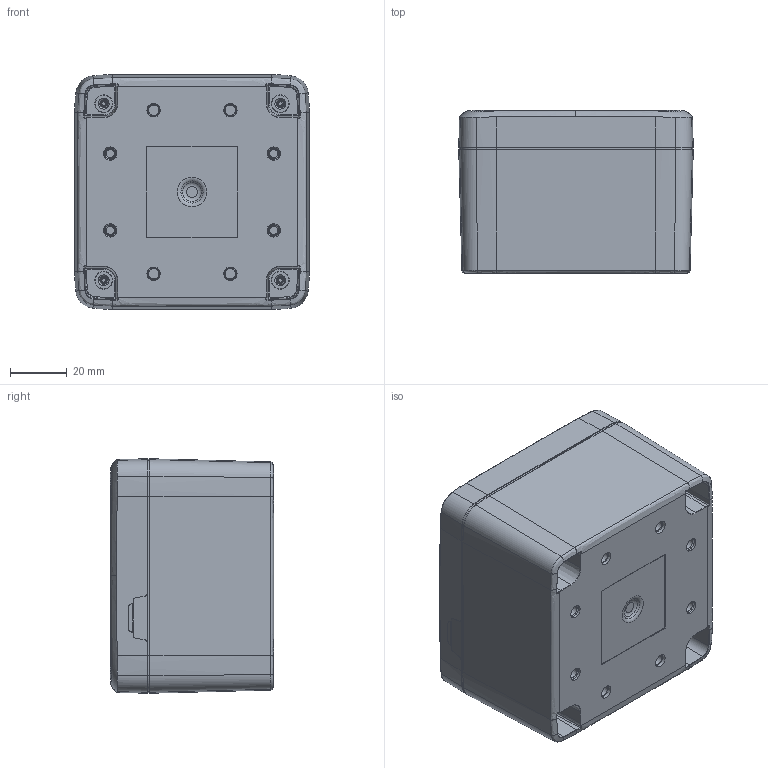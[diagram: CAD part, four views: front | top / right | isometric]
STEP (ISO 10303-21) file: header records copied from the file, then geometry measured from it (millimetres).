
FILE_DESCRIPTION (( 'STEP AP214' ), '1' );
FILE_NAME ('HN-33-14.STEP', '2026-09-24T17:57:20', ( '' ), ( '' ), 'SwSTEP 2.0', 'SolidWorks 2026', '' );
FILE_SCHEMA (( 'AUTOMOTIVE_DESIGN' ));
Length unit declared in the file: inch
Products named in the file (9): INSERTS-3_INSERTS-3; HN-33BN_HN-33BPN-00; HN-33B_HN-33BP-00; HN-33C_HN-33C-02; SCREWS-054_DEFAULT; LABEL-107; HN-33G_default; HN-33-14; HN-33CG_HN-33CG-02
Assembly tree (14 placements, depth 3):
  HN-33-14
    HN-33B_HN-33BP-00
      HN-33BN_HN-33BPN-00
      INSERTS-3_INSERTS-3  x4
      LABEL-107
    HN-33CG_HN-33CG-02
      HN-33C_HN-33C-02
      HN-33G_default
    SCREWS-054_DEFAULT  x4
Bounding box: 82.55 x 57.52 x 82.55 mm (x, y, z)
Volume: 116570.3 mm3; surface area: 86455.5 mm2
Topology: 11 solids, 13 shells, 3061 faces, 7172 edges, 4157 vertices
Faces by surface type: bspline 682, torus 672, cone 590, plane 549, cylinder 500, sphere 68
Full cylindrical faces by diameter (mm): 2.413 x4, 2.705 x4, 4.318 x4, 4.445 x16, 4.699 x8, 5.283 x8, 6.274 x4, 6.858 x4
Entity records: 99608 total; most frequent: CARTESIAN_POINT 43446, ORIENTED_EDGE 12190, DIRECTION 10493, EDGE_CURVE 6098, AXIS2_PLACEMENT_3D 4524, VERTEX_POINT 3669, EDGE_LOOP 2932, FACE_OUTER_BOUND 2755
